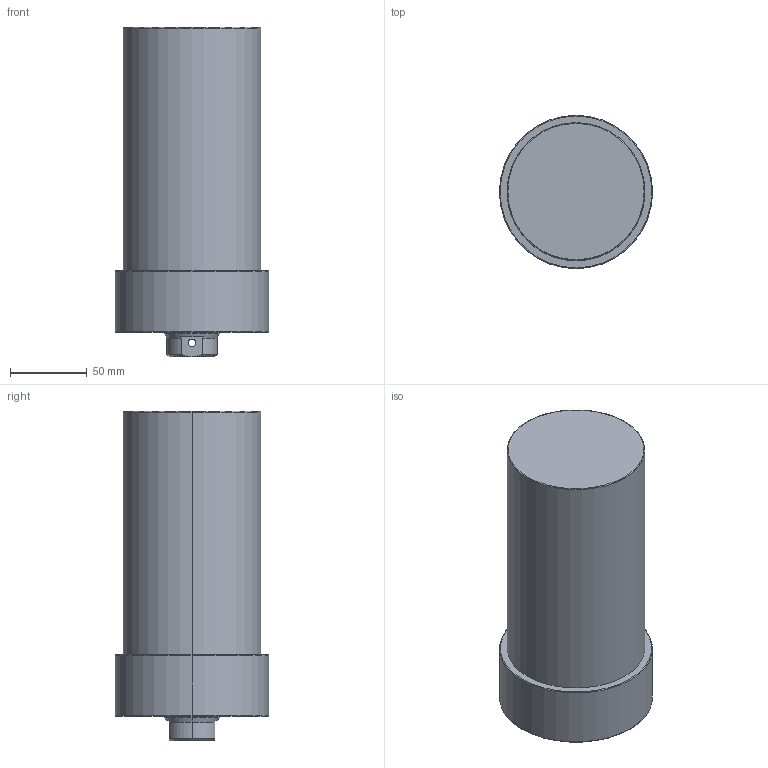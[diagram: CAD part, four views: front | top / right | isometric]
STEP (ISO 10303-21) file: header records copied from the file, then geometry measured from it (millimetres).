
FILE_DESCRIPTION (( 'STEP AP203' ), '1' );
FILE_NAME ('CLLU-090GB-115.STEP', '2020-01-13T05:53:48', ( '' ), ( '' ), 'SwSTEP 2.0', 'SolidWorks 2015', '' );
FILE_SCHEMA (( 'CONFIG_CONTROL_DESIGN' ));
Length unit declared in the file: millimetre
Products named in the file (1): CLLU-090GB-115
Bounding box: 100 x 100 x 215 mm (x, y, z)
Volume: 1319162.5 mm3; surface area: 80556.3 mm2
Topology: 1 solids, 1 shells, 68 faces, 155 edges, 88 vertices
Faces by surface type: cylinder 27, cone 25, plane 10, torus 6
Entity records: 2061 total; most frequent: CARTESIAN_POINT 462, DIRECTION 350, ORIENTED_EDGE 290, AXIS2_PLACEMENT_3D 148, EDGE_CURVE 145, VERTEX_POINT 88, EDGE_LOOP 81, CIRCLE 79
